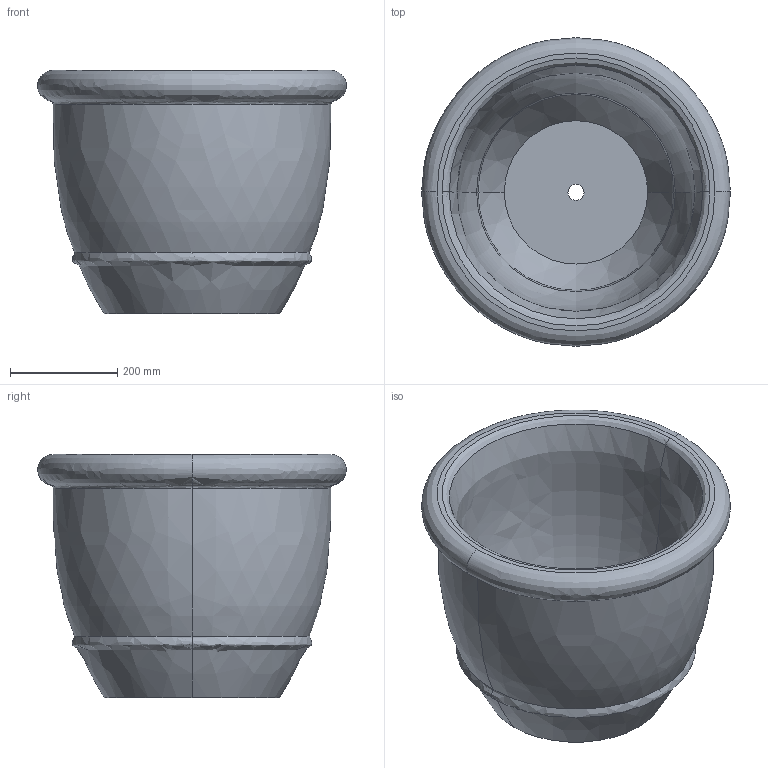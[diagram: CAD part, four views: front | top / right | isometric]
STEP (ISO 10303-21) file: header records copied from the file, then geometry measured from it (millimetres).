
FILE_DESCRIPTION(/* description */ (''),/* implementation_level */ '2;1');
FILE_NAME(/* name */ '60',/* time_stamp */ '2026-07-06T15:39:11+02:00',/* author */ (''),/* organization */ (''),/* preprocessor_version */ 'ST-DEVELOPER v19.2',/* originating_system */ 'Rhino 8.32',/* authorisation */ '');
FILE_SCHEMA (('CONFIG_CONTROL_DESIGN'));
Length unit declared in the file: millimetre
Products named in the file (1): Document
Bounding box: 574.86 x 574.77 x 452.79 mm (x, y, z)
Volume: 25694586.5 mm3; surface area: 1508969.5 mm2
Topology: 1 solids, 1 shells, 19 faces, 38 edges, 22 vertices
Faces by surface type: bspline 14, plane 3, cylinder 2
Entity records: 1269 total; most frequent: CARTESIAN_POINT 843, ORIENTED_EDGE 76, DIRECTION 57, EDGE_CURVE 38, AXIS2_PLACEMENT_3D 31, TRIMMED_CURVE 24, CIRCLE 24, EDGE_LOOP 22
